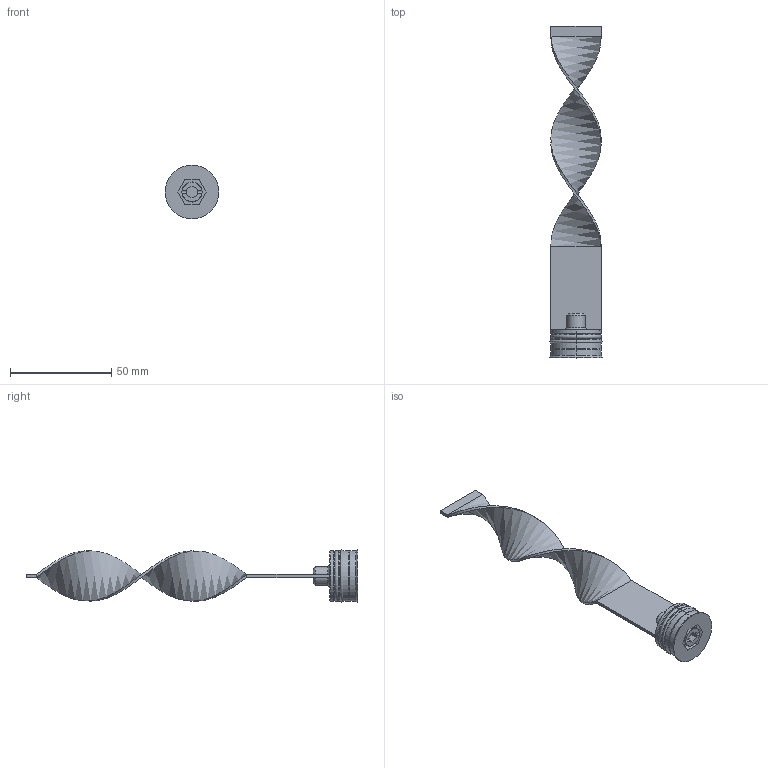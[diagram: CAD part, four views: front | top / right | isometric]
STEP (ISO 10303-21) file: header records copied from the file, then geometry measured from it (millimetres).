
FILE_DESCRIPTION (( 'STEP AP203' ), '1' );
FILE_NAME ('RLS-25Fx150.STEP', '2015-12-10T15:33:01', ( 'Balzi' ), ( '' ), 'SwSTEP 2.0', 'SolidWorks 2015', '' );
FILE_SCHEMA (( 'CONFIG_CONTROL_DESIGN' ));
Length unit declared in the file: millimetre
Products named in the file (1): RLS-25Fx150
Bounding box: 26.5 x 164 x 26.5 mm (x, y, z)
Volume: 12498 mm3; surface area: 11292.7 mm2
Topology: 1 solids, 1 shells, 83 faces, 193 edges, 117 vertices
Faces by surface type: plane 35, cone 19, cylinder 17, torus 8, bspline 4
Entity records: 3229 total; most frequent: CARTESIAN_POINT 1264, DIRECTION 406, ORIENTED_EDGE 386, EDGE_CURVE 193, AXIS2_PLACEMENT_3D 151, VERTEX_POINT 117, VECTOR 104, LINE 104
